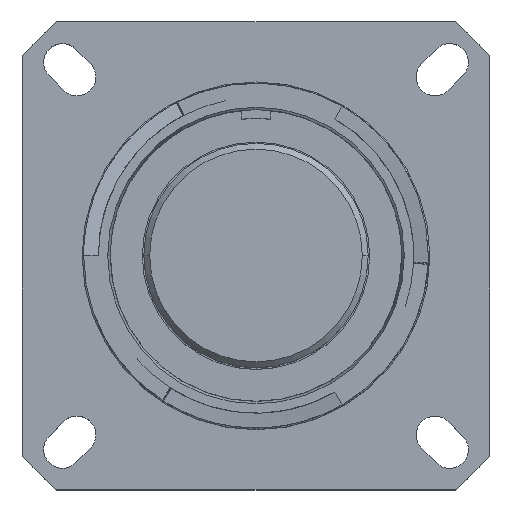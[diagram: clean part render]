
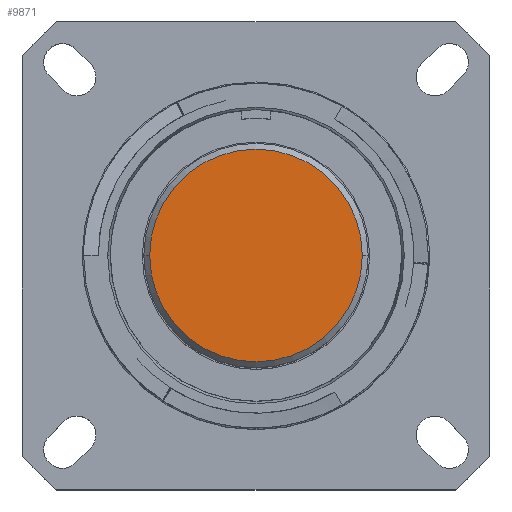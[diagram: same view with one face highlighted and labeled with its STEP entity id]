
A CAD part, top view. The second image highlights one B-rep face of the part: STEP entity #9871.
In plain terms, the highlighted planar face has unit normal (0, 0, 1).
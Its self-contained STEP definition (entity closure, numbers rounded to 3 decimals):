
#4186 = DIRECTION ( 'NONE',  ( 0., 0., 1. ) ) ;
#4265 = FACE_OUTER_BOUND ( 'NONE', #99168, .T. ) ;
#7725 = AXIS2_PLACEMENT_3D ( 'NONE', #72230, #71143, #30105 ) ;
#9871 = ADVANCED_FACE ( 'NONE', ( #4265 ), #14113, .T. ) ;
#12108 = EDGE_CURVE ( 'NONE', #61615, #106734, #81130, .T. ) ;
#14113 = PLANE ( 'NONE',  #100339 ) ;
#20609 = CARTESIAN_POINT ( 'NONE',  ( 0., 0., -0.457 ) ) ;
#29445 = DIRECTION ( 'NONE',  ( 0., 0., 1. ) ) ;
#30105 = DIRECTION ( 'NONE',  ( 1., 0., 0. ) ) ;
#37628 = ORIENTED_EDGE ( 'NONE', *, *, #99867, .T. ) ;
#38209 = CARTESIAN_POINT ( 'NONE',  ( 0., 0., -0.457 ) ) ;
#38477 = ORIENTED_EDGE ( 'NONE', *, *, #12108, .T. ) ;
#47416 = DIRECTION ( 'NONE',  ( 1., 0., 0. ) ) ;
#61615 = VERTEX_POINT ( 'NONE', #95401 ) ;
#71023 = DIRECTION ( 'NONE',  ( 1., 0., 0. ) ) ;
#71143 = DIRECTION ( 'NONE',  ( 0., 0., 1. ) ) ;
#72230 = CARTESIAN_POINT ( 'NONE',  ( 0., 0., -0.457 ) ) ;
#81130 = CIRCLE ( 'NONE', #7725, 9.208 ) ;
#92626 = AXIS2_PLACEMENT_3D ( 'NONE', #20609, #4186, #47416 ) ;
#95401 = CARTESIAN_POINT ( 'NONE',  ( 9.208, 0., -0.457 ) ) ;
#99168 = EDGE_LOOP ( 'NONE', ( #37628, #38477 ) ) ;
#99867 = EDGE_CURVE ( 'NONE', #106734, #61615, #103103, .T. ) ;
#100339 = AXIS2_PLACEMENT_3D ( 'NONE', #38209, #29445, #71023 ) ;
#103103 = CIRCLE ( 'NONE', #92626, 9.208 ) ;
#103481 = CARTESIAN_POINT ( 'NONE',  ( -9.208, 0., -0.457 ) ) ;
#106734 = VERTEX_POINT ( 'NONE', #103481 ) ;
